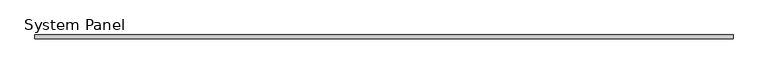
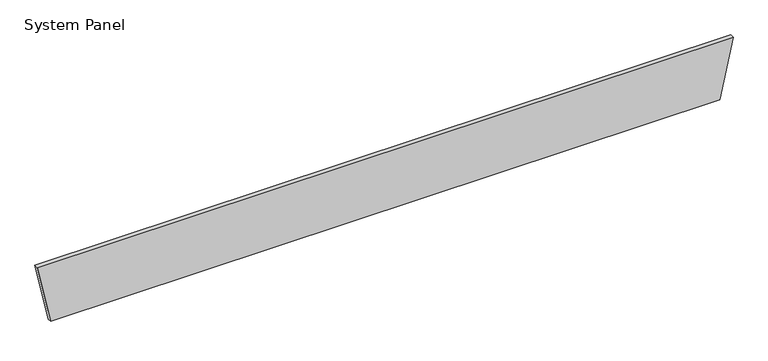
"""IFC4 building model written with IfcOpenShell, lengths in millimetres: plate geometry, System Panel : Equitilt_75mm_Plain_Surfmist."""

from ifc_helpers import new_model, si_unit, frame, origin, place, context, project, spatial, polyline, outline, extrude, source, transform, mapped, element, save


def system_panel_727e9318(model_context):
    return source(origin(), model_context, "Body", "SweptSolid", [
        extrude(outline(polyline([(0.0, -6521.7433237), (0.0, 6521.7433237), (1200.0, 6782.6149856), (1200.0, -6782.6149856), (0.0, -6521.7433237)])), frame((0.0, -75.0, 0.0), z_axis=(0.0, 1.0, 0.0), x_axis=(0.0, 0.0, 1.0)), (0.0, 0.0, 1.0), 75.0),
    ])


if __name__ == "__main__":
    model = new_model("IFC4")
    model_context = context("Model", 3, world=origin())
    ifc_project = project(units=[si_unit("LENGTHUNIT", "METRE", prefix="MILLI")], contexts=[model_context])
    site = spatial("IfcSite", under=ifc_project)
    building = spatial("IfcBuilding", under=site)
    placement = place(None, origin())
    system_panel_shape = system_panel_727e9318(model_context)
    element("IfcPlate", 1, ObjectType="System Panel : Equitilt_75mm_Plain_Surfmist", at=placement, inside=building, context=model_context, shape_type="MappedRepresentation", body=[
        mapped(system_panel_shape, transform((0.0, 0.0, 0.0), x_axis=(1.0, 0.0, 0.0), y_axis=(0.0, 1.0, 0.0), z_axis=(0.0, 0.0, 1.0))),
    ])
    save(model, "model.ifc")
